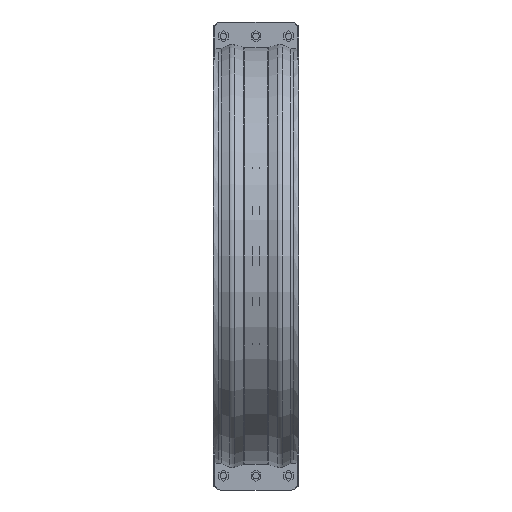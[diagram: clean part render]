
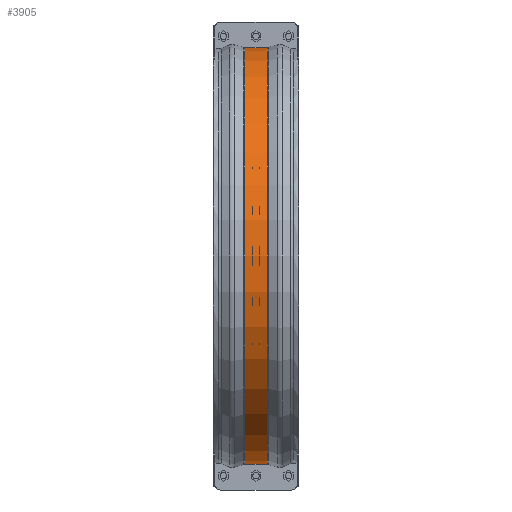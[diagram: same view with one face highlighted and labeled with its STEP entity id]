
A CAD part, front view. The second image highlights one B-rep face of the part: STEP entity #3905.
In plain terms, the highlighted cylindrical face has radius 617.84 mm (diameter 1235.68 mm), a partial arc.
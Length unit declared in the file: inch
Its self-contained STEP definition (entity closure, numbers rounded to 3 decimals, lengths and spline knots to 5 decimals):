
#352=FACE_OUTER_BOUND('',#569,.T.);
#569=EDGE_LOOP('',(#2949,#2950,#2951,#2952));
#870=LINE('',#6065,#1235);
#878=LINE('',#6197,#1243);
#1235=VECTOR('',#4844,0.3937);
#1243=VECTOR('',#4904,0.3937);
#1479=CIRCLE('',#4185,24.32439);
#1481=CIRCLE('',#4189,24.32439);
#1740=VERTEX_POINT('',#6057);
#1741=VERTEX_POINT('',#6064);
#1756=VERTEX_POINT('',#6182);
#1758=VERTEX_POINT('',#6195);
#2175=EDGE_CURVE('',#1741,#1740,#870,.T.);
#2200=EDGE_CURVE('',#1756,#1741,#1479,.T.);
#2204=EDGE_CURVE('',#1758,#1740,#1481,.T.);
#2205=EDGE_CURVE('',#1758,#1756,#878,.T.);
#2949=ORIENTED_EDGE('',*,*,#2175,.T.);
#2950=ORIENTED_EDGE('',*,*,#2204,.F.);
#2951=ORIENTED_EDGE('',*,*,#2205,.T.);
#2952=ORIENTED_EDGE('',*,*,#2200,.T.);
#3582=CYLINDRICAL_SURFACE('',#4188,24.32439);
#3905=ADVANCED_FACE('',(#352),#3582,.T.);
#4185=AXIS2_PLACEMENT_3D('',#6183,#4893,#4894);
#4188=AXIS2_PLACEMENT_3D('',#6194,#4900,#4901);
#4189=AXIS2_PLACEMENT_3D('',#6196,#4902,#4903);
#4844=DIRECTION('',(1.,0.,0.));
#4893=DIRECTION('center_axis',(1.,0.,0.));
#4894=DIRECTION('ref_axis',(0.,0.,-1.));
#4900=DIRECTION('center_axis',(1.,0.,0.));
#4901=DIRECTION('ref_axis',(0.,-1.,0.));
#4902=DIRECTION('center_axis',(1.,0.,0.));
#4903=DIRECTION('ref_axis',(0.,0.,-1.));
#4904=DIRECTION('',(-1.,0.,0.));
#6057=CARTESIAN_POINT('',(1.31451,-0.375,-24.3215));
#6064=CARTESIAN_POINT('',(-1.31451,-0.375,-24.3215));
#6065=CARTESIAN_POINT('',(0.,-0.375,-24.3215));
#6182=CARTESIAN_POINT('',(-1.31451,-0.375,24.3215));
#6183=CARTESIAN_POINT('Origin',(-1.31451,0.,0.));
#6194=CARTESIAN_POINT('Origin',(0.,0.,0.));
#6195=CARTESIAN_POINT('',(1.31451,-0.375,24.3215));
#6196=CARTESIAN_POINT('Origin',(1.31451,0.,0.));
#6197=CARTESIAN_POINT('',(0.,-0.375,24.3215));
